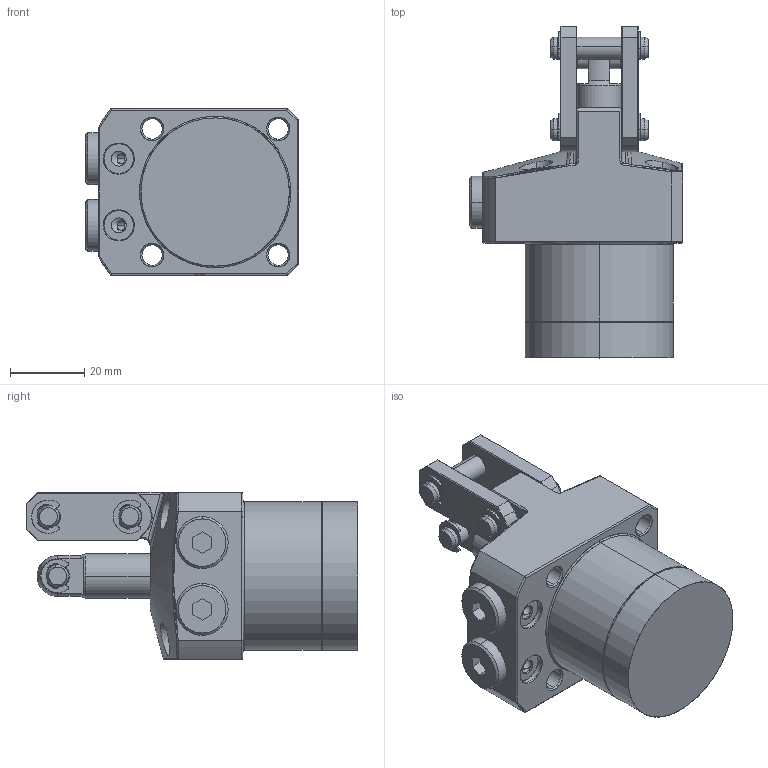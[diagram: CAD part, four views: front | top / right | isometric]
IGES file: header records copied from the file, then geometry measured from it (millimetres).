
Start section: SolidWorks IGES file using analytic representation for surfaces
Global section: file name: D:\abhilash\nijil\cylinder\LKA Series\con v lka\lka40\40cr\40CR PT\0402-0402.IGS; native system: SolidWorks 2010; preprocessor: SolidWorks 2010; author: nidheesh; date: 130730.102932; units: millimetre
Bounding box: 57.5 x 89.5 x 45 mm (x, y, z)
Surface area: 21123.3 mm2 (no closed solid volume)
Topology: 0 solids, 0 shells, 394 faces, 5112 edges, 5107 vertices
Faces by surface type: bspline 214, revolution 180
